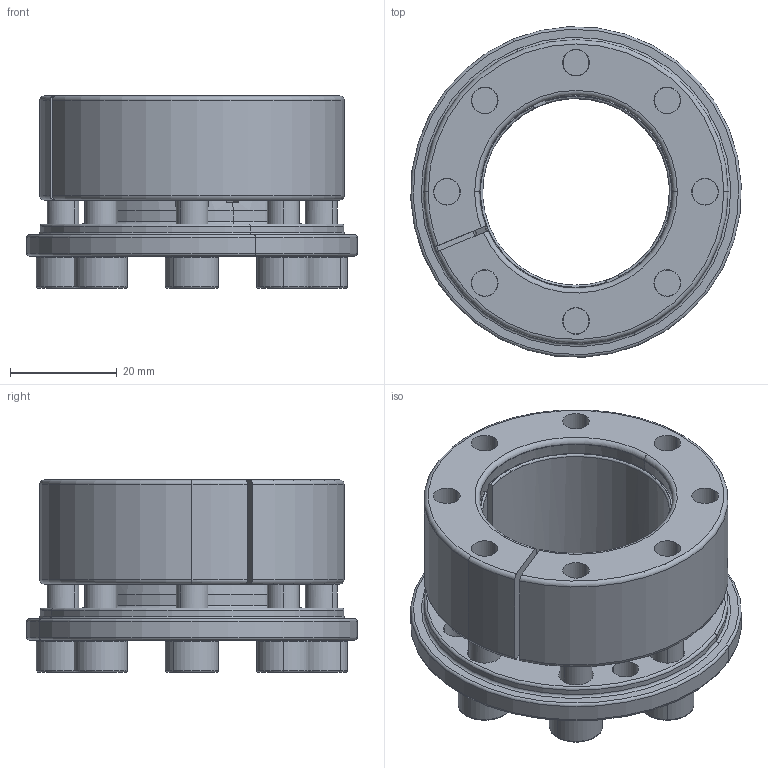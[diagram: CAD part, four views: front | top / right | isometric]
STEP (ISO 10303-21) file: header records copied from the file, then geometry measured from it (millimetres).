
FILE_DESCRIPTION (( 'STEP AP203' ), '1' );
FILE_NAME ('SAPL-A-35-57.STEP', '2013-07-22T10:02:22', ( 'MYCOM' ), ( '' ), 'SwSTEP 2.0', 'SolidWorks 2012', '' );
FILE_SCHEMA (( 'CONFIG_CONTROL_DESIGN' ));
Length unit declared in the file: millimetre
Products named in the file (1): SAPL-A-35-57
Bounding box: 61.94 x 61.94 x 36 mm (x, y, z)
Volume: 45707.1 mm3; surface area: 20562.3 mm2
Topology: 1 solids, 1 shells, 366 faces, 881 edges, 522 vertices
Faces by surface type: plane 127, cylinder 99, torus 79, cone 61
Entity records: 10781 total; most frequent: DIRECTION 2036, CARTESIAN_POINT 1914, ORIENTED_EDGE 1730, EDGE_CURVE 865, AXIS2_PLACEMENT_3D 834, VERTEX_POINT 522, CIRCLE 467, EDGE_LOOP 417
